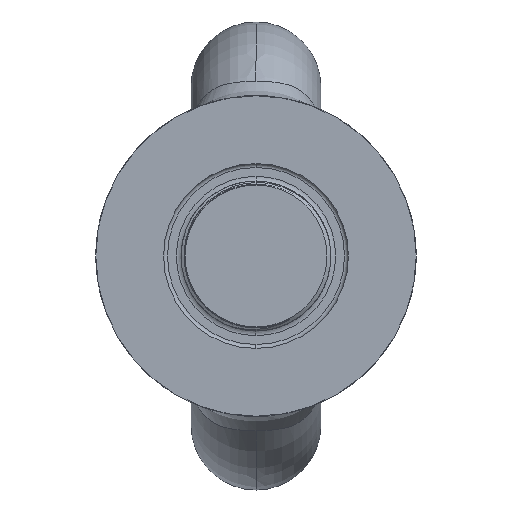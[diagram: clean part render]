
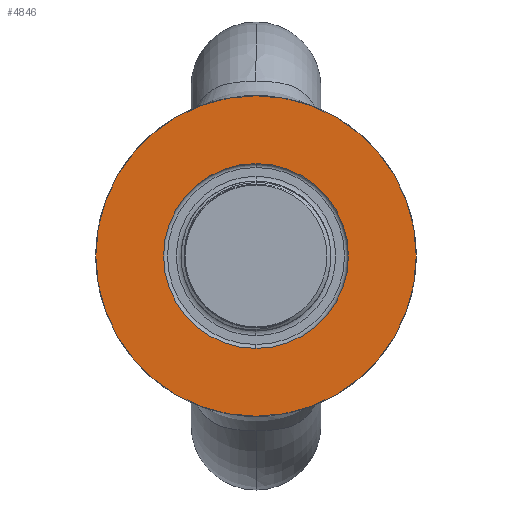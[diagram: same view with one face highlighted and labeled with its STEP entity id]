
A CAD part, left-side view. The second image highlights one B-rep face of the part: STEP entity #4846.
In plain terms, the highlighted planar face has unit normal (-1, 0, 0).
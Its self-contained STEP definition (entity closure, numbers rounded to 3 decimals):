
#336 = CIRCLE ( 'NONE', #6818, 47. ) ;
#339 = FACE_BOUND ( 'NONE', #4048, .T. ) ;
#340 = CIRCLE ( 'NONE', #6817, 81.5 ) ;
#347 = FACE_OUTER_BOUND ( 'NONE', #4063, .T. ) ;
#2464 = CIRCLE ( 'NONE', #6983, 81.5 ) ;
#3325 = EDGE_CURVE ( 'NONE', #4211, #4186, #340, .T. ) ;
#3326 = EDGE_CURVE ( 'NONE', #4198, #4140, #336, .T. ) ;
#3390 = ORIENTED_EDGE ( 'NONE', *, *, #6838, .F. ) ;
#4048 = EDGE_LOOP ( 'NONE', ( #4495, #3390 ) ) ;
#4063 = EDGE_LOOP ( 'NONE', ( #4449, #4511 ) ) ;
#4140 = VERTEX_POINT ( 'NONE', #6420 ) ;
#4186 = VERTEX_POINT ( 'NONE', #6469 ) ;
#4198 = VERTEX_POINT ( 'NONE', #6481 ) ;
#4211 = VERTEX_POINT ( 'NONE', #6494 ) ;
#4449 = ORIENTED_EDGE ( 'NONE', *, *, #6869, .T. ) ;
#4495 = ORIENTED_EDGE ( 'NONE', *, *, #3326, .F. ) ;
#4511 = ORIENTED_EDGE ( 'NONE', *, *, #3325, .T. ) ;
#4846 = ADVANCED_FACE ( 'NONE', ( #339, #347 ), #6570, .F. ) ;
#6171 = CARTESIAN_POINT ( 'NONE',  ( 0., 0., 0. ) ) ;
#6172 = DIRECTION ( 'NONE',  ( -1., 0., 0. ) ) ;
#6173 = DIRECTION ( 'NONE',  ( 0., 0., 1. ) ) ;
#6174 = CARTESIAN_POINT ( 'NONE',  ( 0., 0., 0. ) ) ;
#6175 = DIRECTION ( 'NONE',  ( -1., 0., 0. ) ) ;
#6176 = DIRECTION ( 'NONE',  ( 0., 0., 1. ) ) ;
#6420 = CARTESIAN_POINT ( 'NONE',  ( 0., 0., -47. ) ) ;
#6469 = CARTESIAN_POINT ( 'NONE',  ( 0., 0., 81.5 ) ) ;
#6481 = CARTESIAN_POINT ( 'NONE',  ( 0., 0., 47. ) ) ;
#6494 = CARTESIAN_POINT ( 'NONE',  ( 0., 0., -81.5 ) ) ;
#6569 = CARTESIAN_POINT ( 'NONE',  ( 0., 0., -81.5 ) ) ;
#6570 = PLANE ( 'NONE',  #6962 ) ;
#6575 = DIRECTION ( 'NONE',  ( 1., 0., 0. ) ) ;
#6576 = DIRECTION ( 'NONE',  ( 0., 0., -1. ) ) ;
#6817 = AXIS2_PLACEMENT_3D ( 'NONE', #6171, #6172, #6173 ) ;
#6818 = AXIS2_PLACEMENT_3D ( 'NONE', #6174, #6175, #6176 ) ;
#6838 = EDGE_CURVE ( 'NONE', #4140, #4198, #9947, .T. ) ;
#6869 = EDGE_CURVE ( 'NONE', #4186, #4211, #2464, .T. ) ;
#6962 = AXIS2_PLACEMENT_3D ( 'NONE', #6569, #6575, #6576 ) ;
#6970 = AXIS2_PLACEMENT_3D ( 'NONE', #8423, #8424, #8425 ) ;
#6983 = AXIS2_PLACEMENT_3D ( 'NONE', #8879, #8880, #8881 ) ;
#8423 = CARTESIAN_POINT ( 'NONE',  ( 0., 0., 0. ) ) ;
#8424 = DIRECTION ( 'NONE',  ( -1., 0., 0. ) ) ;
#8425 = DIRECTION ( 'NONE',  ( 0., 0., 1. ) ) ;
#8879 = CARTESIAN_POINT ( 'NONE',  ( 0., 0., 0. ) ) ;
#8880 = DIRECTION ( 'NONE',  ( -1., 0., 0. ) ) ;
#8881 = DIRECTION ( 'NONE',  ( 0., 0., 1. ) ) ;
#9947 = CIRCLE ( 'NONE', #6970, 47. ) ;
